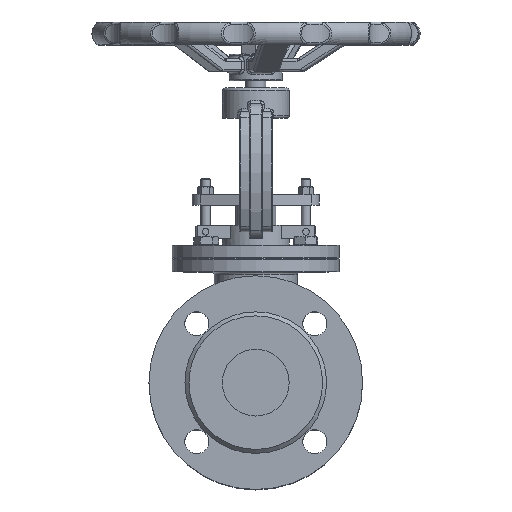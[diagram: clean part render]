
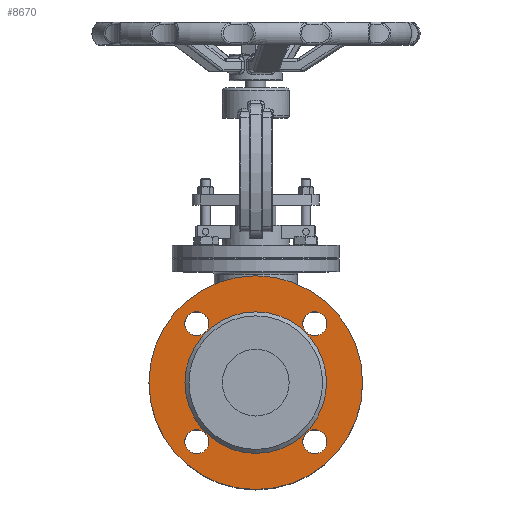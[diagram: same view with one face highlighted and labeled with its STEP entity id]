
A CAD part, top view. The second image highlights one B-rep face of the part: STEP entity #8670.
In plain terms, the highlighted planar face has unit normal (0, 0, 1).
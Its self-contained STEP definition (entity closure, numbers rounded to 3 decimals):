
#8670=ADVANCED_FACE('',(#17532,#17534,#17536,#17538,#17540,#17542),#17544,.T.);
#17532=FACE_BOUND('',#17533,.T.);
#17533=EDGE_LOOP('',(#23636));
#17534=FACE_BOUND('',#17535,.T.);
#17535=EDGE_LOOP('',(#23637));
#17536=FACE_BOUND('',#17537,.T.);
#17537=EDGE_LOOP('',(#23638));
#17538=FACE_BOUND('',#17539,.T.);
#17539=EDGE_LOOP('',(#23639));
#17540=FACE_BOUND('',#17541,.T.);
#17541=EDGE_LOOP('',(#23640));
#17542=FACE_BOUND('',#17543,.T.);
#17543=EDGE_LOOP('',(#23641));
#17544=PLANE('',#17545);
#17545=AXIS2_PLACEMENT_3D('',#17546,#17547,#17548);
#17546=CARTESIAN_POINT('',(0.,0.,112.));
#17547=DIRECTION('',(0.,0.,1.));
#17548=DIRECTION('',(0.,1.,0.));
#23636=ORIENTED_EDGE('',*,*,#26000,.F.);
#23637=ORIENTED_EDGE('',*,*,#26001,.T.);
#23638=ORIENTED_EDGE('',*,*,#26002,.T.);
#23639=ORIENTED_EDGE('',*,*,#26115,.T.);
#23640=ORIENTED_EDGE('',*,*,#26003,.T.);
#23641=ORIENTED_EDGE('',*,*,#26004,.T.);
#26000=EDGE_CURVE('',#29688,#29688,#29689,.T.);
#26001=EDGE_CURVE('',#29690,#29690,#29691,.F.);
#26002=EDGE_CURVE('',#29692,#29692,#29693,.F.);
#26003=EDGE_CURVE('',#29694,#29694,#29695,.F.);
#26004=EDGE_CURVE('',#29696,#29696,#29697,.F.);
#26115=EDGE_CURVE('',#29814,#29814,#29815,.T.);
#29688=VERTEX_POINT('',#57779);
#29689=CIRCLE('',#57780,80.);
#29690=VERTEX_POINT('',#57784);
#29691=CIRCLE('',#57785,9.);
#29692=VERTEX_POINT('',#57789);
#29693=CIRCLE('',#57790,9.);
#29694=VERTEX_POINT('',#57794);
#29695=CIRCLE('',#57795,9.);
#29696=VERTEX_POINT('',#57799);
#29697=CIRCLE('',#57800,9.);
#29814=VERTEX_POINT('',#65391);
#29815=CIRCLE('',#65392,53.);
#57779=CARTESIAN_POINT('',(0.,80.,112.));
#57780=AXIS2_PLACEMENT_3D('',#57781,#57782,#57783);
#57781=CARTESIAN_POINT('',(0.,0.,112.));
#57782=DIRECTION('',(0.,0.,-1.));
#57783=DIRECTION('',(0.,1.,0.));
#57784=CARTESIAN_POINT('',(-44.194,-35.194,112.));
#57785=AXIS2_PLACEMENT_3D('',#57786,#57787,#57788);
#57786=CARTESIAN_POINT('',(-44.194,-44.194,112.));
#57787=DIRECTION('',(0.,0.,1.));
#57788=DIRECTION('',(0.,1.,0.));
#57789=CARTESIAN_POINT('',(44.194,35.194,112.));
#57790=AXIS2_PLACEMENT_3D('',#57791,#57792,#57793);
#57791=CARTESIAN_POINT('',(44.194,44.194,112.));
#57792=DIRECTION('',(0.,0.,1.));
#57793=DIRECTION('',(0.,-1.,0.));
#57794=CARTESIAN_POINT('',(-35.194,44.194,112.));
#57795=AXIS2_PLACEMENT_3D('',#57796,#57797,#57798);
#57796=CARTESIAN_POINT('',(-44.194,44.194,112.));
#57797=DIRECTION('',(0.,0.,1.));
#57798=DIRECTION('',(1.,0.,0.));
#57799=CARTESIAN_POINT('',(35.194,-44.194,112.));
#57800=AXIS2_PLACEMENT_3D('',#57801,#57802,#57803);
#57801=CARTESIAN_POINT('',(44.194,-44.194,112.));
#57802=DIRECTION('',(0.,0.,1.));
#57803=DIRECTION('',(-1.,0.,0.));
#65391=CARTESIAN_POINT('',(0.,53.,112.));
#65392=AXIS2_PLACEMENT_3D('',#65393,#65394,#65395);
#65393=CARTESIAN_POINT('',(0.,0.,112.));
#65394=DIRECTION('',(0.,0.,-1.));
#65395=DIRECTION('',(0.,1.,0.));
